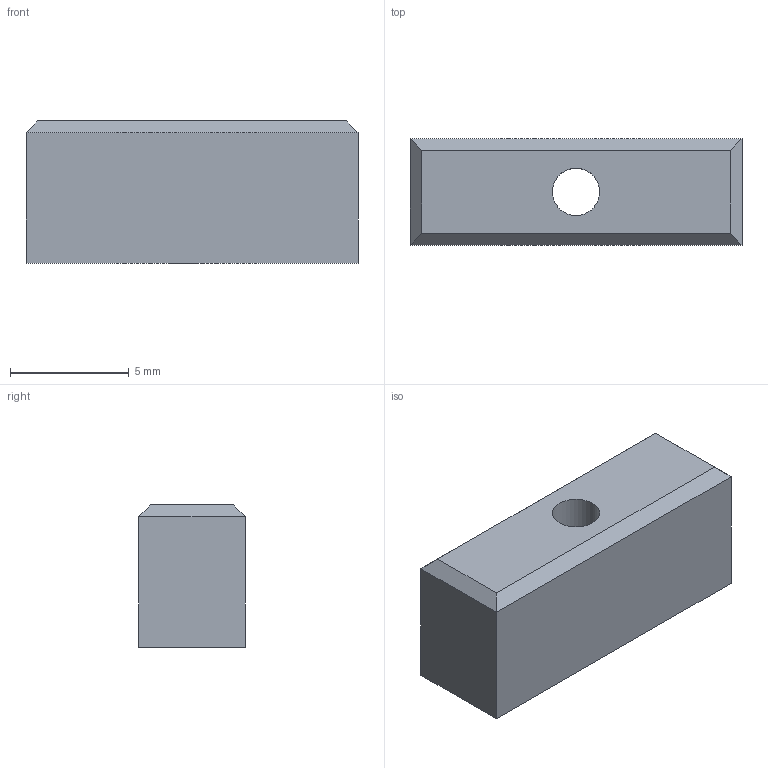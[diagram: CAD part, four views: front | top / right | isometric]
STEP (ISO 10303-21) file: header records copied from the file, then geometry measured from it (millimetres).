
FILE_DESCRIPTION(/* description */ (''),/* implementation_level */ '2;1');
FILE_NAME(/* name */ 'D:\3D печать\Мои проекты\Archy MK 2\STEP\MK3\распорка для ремней плеча.stp',/* time_stamp */ '2019-07-18T21:43:04+06:00',/* author */ ('Пользователь'),/* organization */ (''),/* preprocessor_version */ 'ST-DEVELOPER v16.5',/* originating_system */ 'Autodesk Inventor 2017',/* authorisation */ '');
FILE_SCHEMA (('AUTOMOTIVE_DESIGN { 1 0 10303 214 3 1 1 }'));
Length unit declared in the file: millimetre
Products named in the file (1): распорка \X2\0434043B044F
\X0\ ремней плеча
Bounding box: 14 x 4.5 x 6 mm (x, y, z)
Volume: 354.7 mm3; surface area: 368.2 mm2
Topology: 1 solids, 1 shells, 11 faces, 23 edges, 14 vertices
Faces by surface type: plane 10, cylinder 1
Full cylindrical faces by diameter (mm): 2 x1
Entity records: 310 total; most frequent: DIRECTION 48, CARTESIAN_POINT 48, ORIENTED_EDGE 44, EDGE_CURVE 22, LINE 20, VECTOR 20, EDGE_LOOP 14, VERTEX_POINT 14
